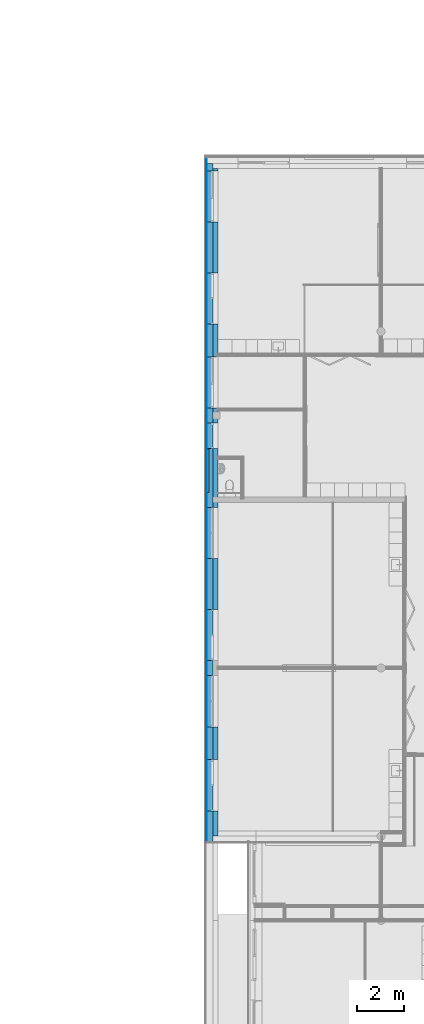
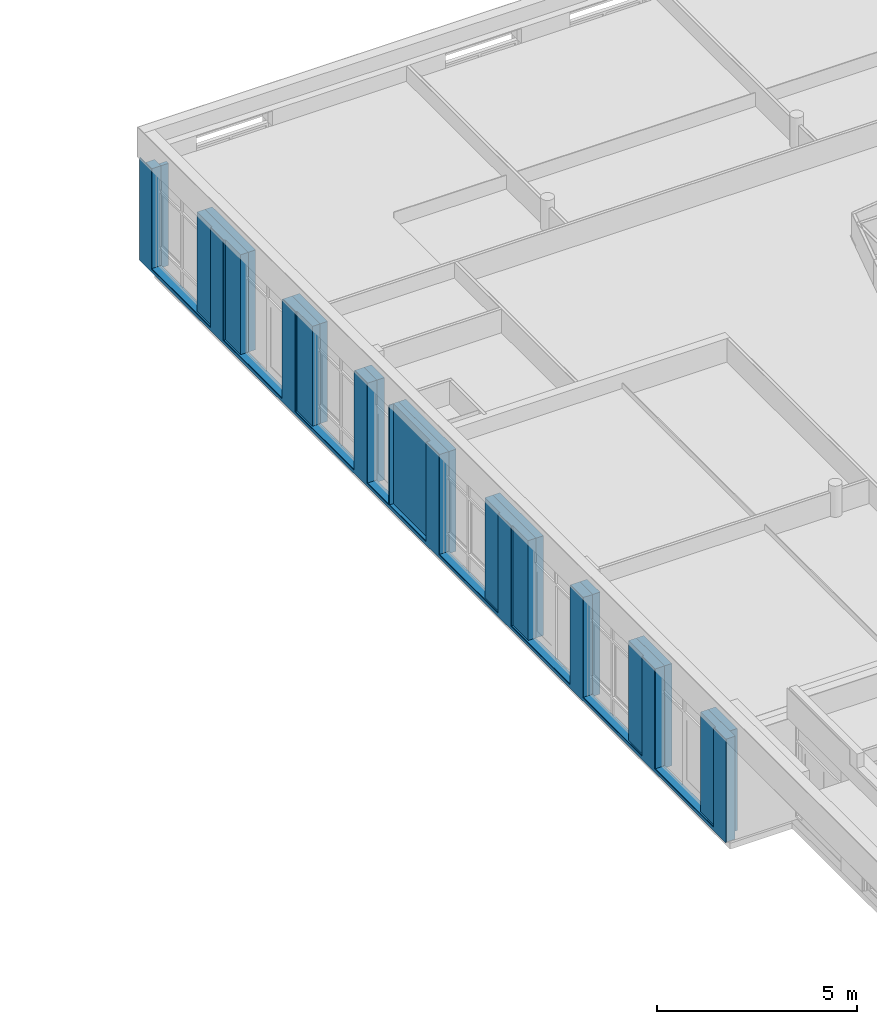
# One storey, part 31 of 167: 3 building element parts, 16 openings, 1 element without a shape of its own.
"""IFC2X3 building model written with IfcOpenShell, lengths in millimetres."""

import ifcopenshell
import ifcopenshell.guid

model = None  # the IFC model being written
_history = None  # IfcOwnerHistory: only IFC2X3 demands one
_inside = {}  # id of a spatial element -> (the spatial element, [elements in it])
_under = {}  # id of a project, library or spatial element -> (it, [spatial elements below it])
_declared = {}  # id of a project -> (the project, [libraries it declares])
_typed = {}  # id of a type object -> (the type object, [elements of that type])
_made_of = {}  # id of a material, layer set ... -> (it, [elements and type objects made of it])


def new_model(schema):
    """Start an empty IFC model of exactly this schema.

    Asked for "IFC4X3", IfcOpenShell would pick the latest addendum, in which some entities
    have other attributes; the version numbers below select the first issue.
    IFC2X3 requires an IfcOwnerHistory on every rooted entity: one is made here for all.
    """
    global model, _history
    if schema == "IFC4X3":
        model = ifcopenshell.file(schema_version=(4, 3, 0, 0))
    else:
        model = ifcopenshell.file(schema=schema)
    _inside.clear()
    _under.clear()
    _declared.clear()
    _typed.clear()
    _made_of.clear()
    _history = None
    if model.schema == "IFC2X3":
        org = make("IfcOrganization", Name="unknown")
        user = make(
            "IfcPersonAndOrganization",
            ThePerson=make("IfcPerson", FamilyName="unknown"),
            TheOrganization=org,
        )
        app = make(
            "IfcApplication",
            ApplicationDeveloper=org,
            Version="unknown",
            ApplicationFullName="unknown",
            ApplicationIdentifier="unknown",
        )
        _history = make(
            "IfcOwnerHistory",
            OwningUser=user,
            OwningApplication=app,
            ChangeAction="ADDED",
            CreationDate=0,
        )
    return model


def make(cls, **values):
    """One entity of the class cls with the attributes given. An attribute that is None is left unset."""
    return model.create_entity(
        cls, **{name: value for name, value in values.items() if value is not None}
    )


def entity(cls, *values):
    """Any entity or typed value of the class cls, its attributes in the order of the schema. None: left unset."""
    e = model.create_entity(cls)
    for i, value in enumerate(values):
        if value is not None:
            e[i] = value
    return e


def rooted(cls, **values):
    """An entity with a GlobalId (a new one), such as an element, a storey or a relation."""
    return make(cls, GlobalId=ifcopenshell.guid.new(), OwnerHistory=_history, **values)


def si_unit(unit_type, name, prefix=None):
    """IfcSIUnit, for example si_unit("LENGTHUNIT", "METRE", prefix="MILLI")."""
    return make("IfcSIUnit", UnitType=unit_type, Prefix=prefix, Name=name)


def converted_unit(unit_type, name, factor, base, dimensions=None, offset=None):
    """IfcConversionBasedUnit, such as the inch: factor (a typed value) times the base unit."""
    return make(
        "IfcConversionBasedUnit"
        if offset is None
        else "IfcConversionBasedUnitWithOffset",
        ConversionOffset=offset,
        Dimensions=None
        if dimensions is None
        else entity("IfcDimensionalExponents", *dimensions),
        UnitType=unit_type,
        Name=name,
        ConversionFactor=make(
            "IfcMeasureWithUnit", ValueComponent=factor, UnitComponent=base
        ),
    )


def derived_unit(unit_type, elements):
    """IfcDerivedUnit: a product of units, each with its exponent."""
    return make(
        "IfcDerivedUnit",
        Elements=[
            make("IfcDerivedUnitElement", Unit=unit, Exponent=power)
            for unit, power in elements
        ],
        UnitType=unit_type,
    )


def money_unit(currency):
    """IfcMonetaryUnit."""
    return make("IfcMonetaryUnit", Currency=currency)


def assignment(units):
    """IfcUnitAssignment: the units of a project."""
    return None if units is None else make("IfcUnitAssignment", Units=units)


def point(xyz):
    """IfcCartesianPoint."""
    return None if xyz is None else make("IfcCartesianPoint", Coordinates=xyz)


def direction(xyz):
    """IfcDirection."""
    return None if xyz is None else make("IfcDirection", DirectionRatios=xyz)


def frame(location, z_axis=None, x_axis=None):
    """IfcAxis2Placement3D, a coordinate frame: its origin and axes. An axis left out is left unset."""
    return make(
        "IfcAxis2Placement3D",
        Location=point(location),
        Axis=direction(z_axis),
        RefDirection=direction(x_axis),
    )


def origin_with_axes():
    """The frame at (0, 0, 0) with the z axis (0, 0, 1) and the x axis (1, 0, 0) written out."""
    return frame((0.0, 0.0, 0.0), z_axis=(0.0, 0.0, 1.0), x_axis=(1.0, 0.0, 0.0))


def place(relative_to, where):
    """IfcLocalPlacement: puts the frame where relative to a parent placement (None: the world)."""
    return make(
        "IfcLocalPlacement", PlacementRelTo=relative_to, RelativePlacement=where
    )


def context(
    kind, dimensions, precision=None, world=None, true_north=None, identifier=None
):
    """IfcGeometricRepresentationContext, for example the 3D "Model" context."""
    return make(
        "IfcGeometricRepresentationContext",
        ContextIdentifier=identifier,
        ContextType=kind,
        CoordinateSpaceDimension=dimensions,
        Precision=precision,
        WorldCoordinateSystem=world,
        TrueNorth=true_north,
    )


def subcontext(parent, identifier, kind, view, scale=None):
    """IfcGeometricRepresentationSubContext, for example "Body" below "Model"."""
    return make(
        "IfcGeometricRepresentationSubContext",
        ContextIdentifier=identifier,
        ContextType=kind,
        ParentContext=parent,
        TargetScale=scale,
        TargetView=view,
    )


def project(units=None, contexts=None):
    """IfcProject with its units and contexts."""
    return rooted(
        "IfcProject",
        Name="project",
        RepresentationContexts=contexts,
        UnitsInContext=assignment(units),
    )


def spatial(cls, under=None, at=None, **own):
    """A site, building, storey or space (cls), placed at a placement, below another one or the project."""
    s = rooted(cls, ObjectPlacement=at, **own)
    if under is not None:
        _under.setdefault(under.id(), (under, []))[1].append(s)
    return s


def faces_of(points, faces, orient=None, outer=None):
    """IfcFace entities. A face is a list of loops; a loop is a list of indices into points, from 0.

    orient and outer hold one flag for each loop. By default every Orientation is true, the
    first loop of a face is its IfcFaceOuterBound and the others are IfcFaceBound.
    """
    made = []
    for i, loops in enumerate(faces):
        bounds = []
        for j, loop in enumerate(loops):
            is_outer = j == 0 if outer is None else outer[i][j]
            bounds.append(
                make(
                    "IfcFaceOuterBound" if is_outer else "IfcFaceBound",
                    Bound=make("IfcPolyLoop", Polygon=[points[k] for k in loop]),
                    Orientation=True if orient is None else orient[i][j],
                )
            )
        made.append(make("IfcFace", Bounds=bounds))
    return made


def faceted_brep(points, faces, orient=None, outer=None, voids=None):
    """IfcFacetedBrep: a solid bounded by flat faces; with voids (closed shells), ...WithVoids."""
    shared = [point(p) for p in points]
    hull = make("IfcClosedShell", CfsFaces=faces_of(shared, faces, orient, outer))
    if voids is None:
        return make("IfcFacetedBrep", Outer=hull)
    return make(
        "IfcFacetedBrepWithVoids",
        Outer=hull,
        Voids=[
            make(cls, CfsFaces=faces_of(shared, fs, o, b)) for cls, fs, o, b in voids
        ],
    )


def shape(context_of_items, identifier, shape_type, items):
    """IfcShapeRepresentation: the items that make up one representation, for example the "Body"."""
    return make(
        "IfcShapeRepresentation",
        ContextOfItems=context_of_items,
        RepresentationIdentifier=identifier,
        RepresentationType=shape_type,
        Items=items,
    )


def material(Name=None, Category=None):
    """IfcMaterial."""
    return make("IfcMaterial", Name=Name, Category=Category)


def made_of(thing, what):
    """Note that an element or type object is made of a material, layer set ...; save() writes the relation."""
    if what is not None:
        _made_of.setdefault(what.id(), (what, []))[1].append(thing)
    return thing


def type_object(cls, material=None, **own):
    """A type object (cls), such as IfcWallType, which elements share."""
    return made_of(rooted(cls, **own), material)


def element(
    cls,
    number,
    at=None,
    inside=None,
    cuts=None,
    type_object=None,
    material=None,
    context=None,
    identifier="Body",
    shape_type=None,
    held_by="IfcProductDefinitionShape",
    body=None,
    shapes=None,
    **own,
):
    """One element of the class cls, such as IfcWall. Its Tag is "e" and its number.

    at: its placement. inside: the storey or other place that contains it. cuts: it is an
    opening in that element (IfcRelVoidsElement). A single representation is given by context,
    identifier, shape_type and body (its items); several are given by shapes. held_by: the class
    of the entity that holds the representations. save() writes the other relations.
    """
    e = rooted(cls, Tag="e%d" % number, ObjectPlacement=at, **own)
    if body is not None:
        shapes = [shape(context, identifier, shape_type, body)]
    if shapes is not None:
        e.Representation = make(held_by, Representations=shapes)
    if inside is not None:
        _inside.setdefault(inside.id(), (inside, []))[1].append(e)
    if cuts is not None:
        rooted(
            "IfcRelVoidsElement", RelatingBuildingElement=cuts, RelatedOpeningElement=e
        )
    if type_object is not None:
        _typed.setdefault(type_object.id(), (type_object, []))[1].append(e)
    return made_of(e, material)


def aggregate(whole, parts):
    """IfcRelAggregates: a whole, such as a stair, and the parts it consists of."""
    return rooted("IfcRelAggregates", RelatingObject=whole, RelatedObjects=parts)


def save(model, path):
    """Write the relations noted so far, then the file.

    IfcRelAggregates (storeys below a building ...), IfcRelContainedInSpatialStructure (elements
    in a storey), IfcRelDefinesByType, IfcRelAssociatesMaterial and IfcRelDeclares: one each for
    every whole, place, type object, material and project.
    """
    for whole, parts in _under.values():
        aggregate(whole, parts)
    for where, things in _inside.values():
        rooted(
            "IfcRelContainedInSpatialStructure",
            RelatedElements=things,
            RelatingStructure=where,
        )
    for kind, things in _typed.values():
        rooted("IfcRelDefinesByType", RelatedObjects=things, RelatingType=kind)
    for what, things in _made_of.values():
        rooted("IfcRelAssociatesMaterial", RelatedObjects=things, RelatingMaterial=what)
    for by, libraries in _declared.values():
        rooted("IfcRelDeclares", RelatingContext=by, RelatedDefinitions=libraries)
    model.write(path)


model = new_model("IFC2X3")

# Units and contexts
model_context = context("Model", 3, precision=0.01, world=origin_with_axes(), true_north=direction((0.0, 1.0)))
plan_context = context("Plan", 3, precision=0.01, world=origin_with_axes(), true_north=direction((0.0, 1.0)))
body_context = subcontext(model_context, "Body", "Model", "MODEL_VIEW")
ifc_project = project(units=[si_unit("LENGTHUNIT", "METRE", prefix="MILLI"), si_unit("AREAUNIT", "SQUARE_METRE"), si_unit("VOLUMEUNIT", "CUBIC_METRE"), converted_unit("PLANEANGLEUNIT", "DEGREE", entity("IfcPlaneAngleMeasure", 0.0174532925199), si_unit("PLANEANGLEUNIT", "RADIAN"), dimensions=[0, 0, 0, 0, 0, 0, 0]), si_unit("SOLIDANGLEUNIT", "STERADIAN"), money_unit("EUR"), converted_unit("TIMEUNIT", "Year", entity("IfcTimeMeasure", 31556926.0), si_unit("TIMEUNIT", "SECOND"), dimensions=[0, 0, 1, 0, 0, 0, 0]), si_unit("MASSUNIT", "GRAM", prefix="KILO"), si_unit("THERMODYNAMICTEMPERATUREUNIT", "DEGREE_CELSIUS"), si_unit("LUMINOUSINTENSITYUNIT", "LUMEN"), si_unit("ENERGYUNIT", "JOULE", prefix="MEGA"), derived_unit("THERMALCONDUCTANCEUNIT", [(si_unit("POWERUNIT", "WATT"), 1), (si_unit("LENGTHUNIT", "METRE"), -1), (si_unit("THERMODYNAMICTEMPERATUREUNIT", "KELVIN"), -1)]), derived_unit("SPECIFICHEATCAPACITYUNIT", [(si_unit("ENERGYUNIT", "JOULE"), 1), (si_unit("MASSUNIT", "GRAM", prefix="KILO"), -1), (si_unit("THERMODYNAMICTEMPERATUREUNIT", "KELVIN"), -1)]), derived_unit("MASSDENSITYUNIT", [(si_unit("MASSUNIT", "GRAM", prefix="KILO"), 1), (si_unit("VOLUMEUNIT", "CUBIC_METRE"), -1)])], contexts=[model_context, plan_context])

# Site, building, storey
site_placement = place(None, origin_with_axes())
site = spatial("IfcSite", under=ifc_project, at=site_placement, Name="Site", CompositionType="ELEMENT")
building_placement = place(site_placement, origin_with_axes())
building = spatial("IfcBuilding", under=site, at=building_placement, Name="Naam gebouw", CompositionType="ELEMENT")
storey_placement = place(building_placement, origin_with_axes())
storey = spatial("IfcBuildingStorey", under=building, at=storey_placement, Name="Begane grond", CompositionType="ELEMENT", Elevation=0.0)

# Wall, openings, building element parts
wall_type = type_object("IfcWallType", Name="_TenW_21_E-BOARD_bg_standaard 498", PredefinedType="NOTDEFINED")
wall_placement = place(storey_placement, frame((0.0, 50400.0, -100.0), z_axis=(0.0, 0.0, 1.0), x_axis=(0.0, -1.0, 0.0)))
wall = element("IfcWall", 1, at=wall_placement, inside=storey, type_object=wall_type, Name="21_Wand_Wand-x")
opening_1_placement = place(wall_placement, frame((4305.525, 0.0, 100.0), z_axis=(0.0, 0.0, 1.0), x_axis=(1.0, 0.0, 0.0)))
element("IfcOpeningElement", 2, at=opening_1_placement, cuts=wall, Name="31_Raam_-", context=body_context, shape_type="Brep", body=[
    faceted_brep([(382.125, -782.0, 0.0), (-382.125, -782.0, 0.0), (-382.125, -224.0, 0.0), (382.125, -224.0, 0.0), (382.125, -782.0, 3050.0), (-382.125, -782.0, 3050.0), (-382.125, -224.0, 3050.0), (382.125, -224.0, 3050.0)], [[[0, 1, 2, 3]], [[0, 4, 5, 1]], [[1, 5, 6, 2]], [[3, 2, 6, 7]], [[4, 0, 3, 7]], [[5, 4, 7, 6]]]),
])
opening_2_placement = place(wall_placement, frame((2895.775, 0.0, 100.0), z_axis=(0.0, 0.0, 1.0), x_axis=(1.0, 0.0, 0.0)))
element("IfcOpeningElement", 3, at=opening_2_placement, cuts=wall, Name="31_Raam_-", context=body_context, shape_type="Brep", body=[
    faceted_brep([(382.125, -782.0, 0.0), (-382.125, -782.0, 0.0), (-382.125, -224.0, 0.0), (382.125, -224.0, 0.0), (382.125, -782.0, 3050.0), (-382.125, -782.0, 3050.0), (-382.125, -224.0, 3050.0), (382.125, -224.0, 3050.0)], [[[0, 1, 2, 3]], [[0, 4, 5, 1]], [[1, 5, 6, 2]], [[3, 2, 6, 7]], [[4, 0, 3, 7]], [[5, 4, 7, 6]]]),
])
opening_3_placement = place(wall_placement, frame((7905.825, 0.0, 100.0), z_axis=(0.0, 0.0, 1.0), x_axis=(1.0, 0.0, 0.0)))
element("IfcOpeningElement", 4, at=opening_3_placement, cuts=wall, Name="31_Raam_-", context=body_context, shape_type="Brep", body=[
    faceted_brep([(382.125, -782.0, 0.0), (-382.125, -782.0, 0.0), (-382.125, -224.0, 0.0), (382.125, -224.0, 0.0), (382.125, -782.0, 3050.0), (-382.125, -782.0, 3050.0), (-382.125, -224.0, 3050.0), (382.125, -224.0, 3050.0)], [[[0, 1, 2, 3]], [[0, 4, 5, 1]], [[1, 5, 6, 2]], [[3, 2, 6, 7]], [[4, 0, 3, 7]], [[5, 4, 7, 6]]]),
])
opening_4_placement = place(wall_placement, frame((13151.45, 0.0, 100.0), z_axis=(0.0, 0.0, 1.0), x_axis=(1.0, 0.0, 0.0)))
element("IfcOpeningElement", 5, at=opening_4_placement, cuts=wall, Name="31_Raam_-", context=body_context, shape_type="Brep", body=[
    faceted_brep([(927.35, -782.0, 0.0), (-927.35, -782.0, 0.0), (-927.35, -160.0, 0.0), (927.35, -160.0, 0.0), (927.35, -782.0, 3050.0), (-927.35, -782.0, 3050.0), (-927.35, -160.0, 3050.0), (927.35, -160.0, 3050.0)], [[[0, 1, 2, 3]], [[0, 4, 5, 1]], [[1, 5, 6, 2]], [[3, 2, 6, 7]], [[4, 0, 3, 7]], [[5, 4, 7, 6]]]),
])
opening_5_placement = place(wall_placement, frame((17297.425, 0.0, 100.0), z_axis=(0.0, 0.0, 1.0), x_axis=(1.0, 0.0, 0.0)))
element("IfcOpeningElement", 6, at=opening_5_placement, cuts=wall, Name="31_Raam_-", context=body_context, shape_type="Brep", body=[
    faceted_brep([(382.275, -782.0, 0.0), (-382.275, -782.0, 0.0), (-382.275, -224.0, 0.0), (382.275, -224.0, 0.0), (382.275, -782.0, 3050.0), (-382.275, -782.0, 3050.0), (-382.275, -224.0, 3050.0), (382.275, -224.0, 3050.0)], [[[0, 1, 2, 3]], [[0, 4, 5, 1]], [[1, 5, 6, 2]], [[3, 2, 6, 7]], [[4, 0, 3, 7]], [[5, 4, 7, 6]]]),
])
opening_6_placement = place(wall_placement, frame((18707.3, 0.0, 100.0), z_axis=(0.0, 0.0, 1.0), x_axis=(1.0, 0.0, 0.0)))
element("IfcOpeningElement", 7, at=opening_6_placement, cuts=wall, Name="31_Raam_-", context=body_context, shape_type="Brep", body=[
    faceted_brep([(382.1, -782.0, 0.0), (-382.1, -782.0, 0.0), (-382.1, -224.0, 0.0), (382.1, -224.0, 0.0), (382.1, -782.0, 3050.0), (-382.1, -782.0, 3050.0), (-382.1, -224.0, 3050.0), (382.1, -224.0, 3050.0)], [[[0, 1, 2, 3]], [[0, 4, 5, 1]], [[1, 5, 6, 2]], [[3, 2, 6, 7]], [[4, 0, 3, 7]], [[5, 4, 7, 6]]]),
])
opening_7_placement = place(wall_placement, frame((24497.85, 0.0, 100.0), z_axis=(0.0, 0.0, 1.0), x_axis=(1.0, 0.0, 0.0)))
element("IfcOpeningElement", 8, at=opening_7_placement, cuts=wall, Name="31_Raam_-", context=body_context, shape_type="Brep", body=[
    faceted_brep([(381.85, -782.0, 0.0), (-381.85, -782.0, 0.0), (-381.85, -224.0, 0.0), (381.85, -224.0, 0.0), (381.85, -782.0, 3050.0), (-381.85, -782.0, 3050.0), (-381.85, -224.0, 3050.0), (381.85, -224.0, 3050.0)], [[[0, 1, 2, 3]], [[0, 4, 5, 1]], [[1, 5, 6, 2]], [[3, 2, 6, 7]], [[4, 0, 3, 7]], [[5, 4, 7, 6]]]),
])
opening_8_placement = place(wall_placement, frame((28097.6, 0.0, 100.0), z_axis=(0.0, 0.0, 1.0), x_axis=(1.0, 0.0, 0.0)))
element("IfcOpeningElement", 9, at=opening_8_placement, cuts=wall, Name="31_Raam_-", context=body_context, shape_type="Brep", body=[
    faceted_brep([(381.85, -782.0, 0.0), (-381.85, -782.0, 0.0), (-381.85, -224.0, 0.0), (381.85, -224.0, 0.0), (381.85, -782.0, 3050.0), (-381.85, -782.0, 3050.0), (-381.85, -224.0, 3050.0), (381.85, -224.0, 3050.0)], [[[0, 1, 2, 3]], [[0, 4, 5, 1]], [[1, 5, 6, 2]], [[3, 2, 6, 7]], [[4, 0, 3, 7]], [[5, 4, 7, 6]]]),
])
opening_9_placement = place(wall_placement, frame((9382.95, 0.0, 100.0), z_axis=(0.0, 0.0, 1.0), x_axis=(1.0, 0.0, 0.0)))
element("IfcOpeningElement", 10, at=opening_9_placement, cuts=wall, Name="31_Raam_He-10", context=body_context, shape_type="Brep", body=[
    faceted_brep([(-1095.0, -164.0, 3050.0), (-1095.0, -79.0, 3050.0), (1095.0, -79.0, 3050.0), (1095.0, -164.0, 3050.0), (-1095.0, -164.0, 3135.0), (-1095.0, -79.0, 3135.0), (1095.0, -79.0, 3135.0), (1095.0, -164.0, 3135.0)], [[[0, 1, 2, 3]], [[0, 4, 5, 1]], [[1, 5, 6, 2]], [[3, 2, 6, 7]], [[4, 0, 3, 7]], [[5, 4, 7, 6]]]),
    faceted_brep([(-1095.0, -84.0, 0.0), (-1095.0, -84.0, 3050.0), (-1095.0, 712.0, 3050.0), (-1095.0, 712.0, 0.0), (1095.0, -84.0, 0.0), (1095.0, -84.0, 3050.0), (1095.0, 712.0, 3050.0), (1095.0, 712.0, 0.0)], [[[0, 1, 2, 3]], [[0, 4, 5, 1]], [[1, 5, 6, 2]], [[3, 2, 6, 7]], [[4, 0, 3, 7]], [[5, 4, 7, 6]]]),
    faceted_brep([(-1095.0, -84.0, 3050.0), (-1095.0, -84.0, 0.0), (-1095.0, -782.0, 0.0), (-1095.0, -782.0, 3050.0), (1095.0, -84.0, 3050.0), (1095.0, -84.0, 0.0), (1095.0, -782.0, 0.0), (1095.0, -782.0, 3050.0)], [[[0, 1, 2, 3]], [[0, 4, 5, 1]], [[1, 5, 6, 2]], [[3, 2, 6, 7]], [[4, 0, 3, 7]], [[5, 4, 7, 6]]]),
])
opening_10_placement = place(wall_placement, frame((15820.15, 0.0, 100.0), z_axis=(0.0, 0.0, 1.0), x_axis=(1.0, 0.0, 0.0)))
element("IfcOpeningElement", 11, at=opening_10_placement, cuts=wall, Name="31_Raam_He-16", context=body_context, shape_type="Brep", body=[
    faceted_brep([(-1095.0, -164.0, 3050.0), (-1095.0, -79.0, 3050.0), (1095.0, -79.0, 3050.0), (1095.0, -164.0, 3050.0), (-1095.0, -164.0, 3135.0), (-1095.0, -79.0, 3135.0), (1095.0, -79.0, 3135.0), (1095.0, -164.0, 3135.0)], [[[0, 1, 2, 3]], [[0, 4, 5, 1]], [[1, 5, 6, 2]], [[3, 2, 6, 7]], [[4, 0, 3, 7]], [[5, 4, 7, 6]]]),
    faceted_brep([(-1095.0, -84.0, 0.0), (-1095.0, -84.0, 3050.0), (-1095.0, 712.0, 3050.0), (-1095.0, 712.0, 0.0), (1095.0, -84.0, 0.0), (1095.0, -84.0, 3050.0), (1095.0, 712.0, 3050.0), (1095.0, 712.0, 0.0)], [[[0, 1, 2, 3]], [[0, 4, 5, 1]], [[1, 5, 6, 2]], [[3, 2, 6, 7]], [[4, 0, 3, 7]], [[5, 4, 7, 6]]]),
    faceted_brep([(-1095.0, -84.0, 3050.0), (-1095.0, -84.0, 0.0), (-1095.0, -782.0, 0.0), (-1095.0, -782.0, 3050.0), (1095.0, -84.0, 3050.0), (1095.0, -84.0, 0.0), (1095.0, -782.0, 0.0), (1095.0, -782.0, 3050.0)], [[[0, 1, 2, 3]], [[0, 4, 5, 1]], [[1, 5, 6, 2]], [[3, 2, 6, 7]], [[4, 0, 3, 7]], [[5, 4, 7, 6]]]),
])
opening_11_placement = place(wall_placement, frame((23021.0, 0.0, 100.0), z_axis=(0.0, 0.0, 1.0), x_axis=(1.0, 0.0, 0.0)))
element("IfcOpeningElement", 12, at=opening_11_placement, cuts=wall, Name="31_Raam_He-16", context=body_context, shape_type="Brep", body=[
    faceted_brep([(-1095.0, -164.0, 3050.0), (-1095.0, -79.0, 3050.0), (1095.0, -79.0, 3050.0), (1095.0, -164.0, 3050.0), (-1095.0, -164.0, 3135.0), (-1095.0, -79.0, 3135.0), (1095.0, -79.0, 3135.0), (1095.0, -164.0, 3135.0)], [[[0, 1, 2, 3]], [[0, 4, 5, 1]], [[1, 5, 6, 2]], [[3, 2, 6, 7]], [[4, 0, 3, 7]], [[5, 4, 7, 6]]]),
    faceted_brep([(-1095.0, -84.0, 0.0), (-1095.0, -84.0, 3050.0), (-1095.0, 712.0, 3050.0), (-1095.0, 712.0, 0.0), (1095.0, -84.0, 0.0), (1095.0, -84.0, 3050.0), (1095.0, 712.0, 3050.0), (1095.0, 712.0, 0.0)], [[[0, 1, 2, 3]], [[0, 4, 5, 1]], [[1, 5, 6, 2]], [[3, 2, 6, 7]], [[4, 0, 3, 7]], [[5, 4, 7, 6]]]),
    faceted_brep([(-1095.0, -84.0, 3050.0), (-1095.0, -84.0, 0.0), (-1095.0, -782.0, 0.0), (-1095.0, -782.0, 3050.0), (1095.0, -84.0, 3050.0), (1095.0, -84.0, 0.0), (1095.0, -782.0, 0.0), (1095.0, -782.0, 3050.0)], [[[0, 1, 2, 3]], [[0, 4, 5, 1]], [[1, 5, 6, 2]], [[3, 2, 6, 7]], [[4, 0, 3, 7]], [[5, 4, 7, 6]]]),
])
opening_12_placement = place(wall_placement, frame((1418.65, 0.0, 100.0), z_axis=(0.0, 0.0, 1.0), x_axis=(1.0, 0.0, 0.0)))
element("IfcOpeningElement", 13, at=opening_12_placement, cuts=wall, Name="31_Raam_He-10", context=body_context, shape_type="Brep", body=[
    faceted_brep([(-1095.0, -164.0, 3050.0), (-1095.0, -79.0, 3050.0), (1095.0, -79.0, 3050.0), (1095.0, -164.0, 3050.0), (-1095.0, -164.0, 3135.0), (-1095.0, -79.0, 3135.0), (1095.0, -79.0, 3135.0), (1095.0, -164.0, 3135.0)], [[[0, 1, 2, 3]], [[0, 4, 5, 1]], [[1, 5, 6, 2]], [[3, 2, 6, 7]], [[4, 0, 3, 7]], [[5, 4, 7, 6]]]),
    faceted_brep([(-1095.0, -84.0, 0.0), (-1095.0, -84.0, 3050.0), (-1095.0, 712.0, 3050.0), (-1095.0, 712.0, 0.0), (1095.0, -84.0, 0.0), (1095.0, -84.0, 3050.0), (1095.0, 712.0, 3050.0), (1095.0, 712.0, 0.0)], [[[0, 1, 2, 3]], [[0, 4, 5, 1]], [[1, 5, 6, 2]], [[3, 2, 6, 7]], [[4, 0, 3, 7]], [[5, 4, 7, 6]]]),
    faceted_brep([(-1095.0, -84.0, 3050.0), (-1095.0, -84.0, 0.0), (-1095.0, -782.0, 0.0), (-1095.0, -782.0, 3050.0), (1095.0, -84.0, 3050.0), (1095.0, -84.0, 0.0), (1095.0, -782.0, 0.0), (1095.0, -782.0, 3050.0)], [[[0, 1, 2, 3]], [[0, 4, 5, 1]], [[1, 5, 6, 2]], [[3, 2, 6, 7]], [[4, 0, 3, 7]], [[5, 4, 7, 6]]]),
])
opening_13_placement = place(wall_placement, frame((20184.4, 0.0, 100.0), z_axis=(0.0, 0.0, 1.0), x_axis=(1.0, 0.0, 0.0)))
element("IfcOpeningElement", 14, at=opening_13_placement, cuts=wall, Name="32_Deur_He-08", context=body_context, shape_type="Brep", body=[
    faceted_brep([(-1095.0, 712.0, 3050.0), (-1095.0, 712.0, 0.0), (-1095.0, -84.0, 0.0), (-1095.0, -84.0, 3050.0), (1095.0, 712.0, 3050.0), (1095.0, 712.0, 0.0), (1095.0, -84.0, 0.0), (1095.0, -84.0, 3050.0)], [[[0, 1, 2, 3]], [[0, 4, 5, 1]], [[1, 5, 6, 2]], [[3, 2, 6, 7]], [[4, 0, 3, 7]], [[5, 4, 7, 6]]]),
    faceted_brep([(-1095.0, -782.0, 0.0), (-1095.0, -782.0, 3050.0), (-1095.0, -84.0, 3050.0), (-1095.0, -84.0, 0.0), (1095.0, -782.0, 0.0), (1095.0, -782.0, 3050.0), (1095.0, -84.0, 3050.0), (1095.0, -84.0, 0.0)], [[[0, 1, 2, 3]], [[0, 4, 5, 1]], [[1, 5, 6, 2]], [[3, 2, 6, 7]], [[4, 0, 3, 7]], [[5, 4, 7, 6]]]),
])
opening_14_placement = place(wall_placement, frame((26620.75, 0.0, 100.0), z_axis=(0.0, 0.0, 1.0), x_axis=(1.0, 0.0, 0.0)))
element("IfcOpeningElement", 15, at=opening_14_placement, cuts=wall, Name="32_Deur_He-08s", context=body_context, shape_type="Brep", body=[
    faceted_brep([(1095.0, -84.0, 3050.0), (1095.0, -84.0, 0.0), (1095.0, 712.0, 0.0), (1095.0, 712.0, 3050.0), (-1095.0, -84.0, 3050.0), (-1095.0, -84.0, 0.0), (-1095.0, 712.0, 0.0), (-1095.0, 712.0, 3050.0)], [[[0, 1, 2, 3]], [[0, 4, 5, 1]], [[1, 5, 6, 2]], [[3, 2, 6, 7]], [[4, 0, 3, 7]], [[5, 4, 7, 6]]]),
    faceted_brep([(1095.0, -84.0, 0.0), (1095.0, -84.0, 3050.0), (1095.0, -782.0, 3050.0), (1095.0, -782.0, 0.0), (-1095.0, -84.0, 0.0), (-1095.0, -84.0, 3050.0), (-1095.0, -782.0, 3050.0), (-1095.0, -782.0, 0.0)], [[[0, 1, 2, 3]], [[0, 4, 5, 1]], [[1, 5, 6, 2]], [[3, 2, 6, 7]], [[4, 0, 3, 7]], [[5, 4, 7, 6]]]),
])
opening_15_placement = place(wall_placement, frame((5782.65, 0.0, 100.0), z_axis=(0.0, 0.0, 1.0), x_axis=(1.0, 0.0, 0.0)))
element("IfcOpeningElement", 16, at=opening_15_placement, cuts=wall, Name="32_Deur_He-08s", context=body_context, shape_type="Brep", body=[
    faceted_brep([(1095.0, -84.0, 3050.0), (1095.0, -84.0, 0.0), (1095.0, 712.0, 0.0), (1095.0, 712.0, 3050.0), (-1095.0, -84.0, 3050.0), (-1095.0, -84.0, 0.0), (-1095.0, 712.0, 0.0), (-1095.0, 712.0, 3050.0)], [[[0, 1, 2, 3]], [[0, 4, 5, 1]], [[1, 5, 6, 2]], [[3, 2, 6, 7]], [[4, 0, 3, 7]], [[5, 4, 7, 6]]]),
    faceted_brep([(1095.0, -84.0, 0.0), (1095.0, -84.0, 3050.0), (1095.0, -782.0, 3050.0), (1095.0, -782.0, 0.0), (-1095.0, -84.0, 0.0), (-1095.0, -84.0, 3050.0), (-1095.0, -782.0, 3050.0), (-1095.0, -782.0, 0.0)], [[[0, 1, 2, 3]], [[0, 4, 5, 1]], [[1, 5, 6, 2]], [[3, 2, 6, 7]], [[4, 0, 3, 7]], [[5, 4, 7, 6]]]),
])
opening_16_placement = place(wall_placement, frame((11666.0, 0.0, 100.0), z_axis=(0.0, 0.0, 1.0), x_axis=(1.0, 0.0, 0.0)))
element("IfcOpeningElement", 17, at=opening_16_placement, cuts=wall, Name="32_Deur_He-01", context=body_context, shape_type="Brep", body=[
    faceted_brep([(-542.0, 712.0, 3050.0), (-542.0, 712.0, 0.0), (-542.0, -84.0, 0.0), (-542.0, -84.0, 3050.0), (542.0, 712.0, 3050.0), (542.0, 712.0, 0.0), (542.0, -84.0, 0.0), (542.0, -84.0, 3050.0)], [[[0, 1, 2, 3]], [[0, 4, 5, 1]], [[1, 5, 6, 2]], [[3, 2, 6, 7]], [[4, 0, 3, 7]], [[5, 4, 7, 6]]]),
    faceted_brep([(-542.0, -782.0, 0.0), (-542.0, -782.0, 3050.0), (-542.0, -84.0, 3050.0), (-542.0, -84.0, 0.0), (542.0, -782.0, 0.0), (542.0, -782.0, 3050.0), (542.0, -84.0, 3050.0), (542.0, -84.0, 0.0)], [[[0, 1, 2, 3]], [[0, 4, 5, 1]], [[1, 5, 6, 2]], [[3, 2, 6, 7]], [[4, 0, 3, 7]], [[5, 4, 7, 6]]]),
])
ifc_material_1 = material(Name="Steen - Kalkzandsteen C")
building_element_part_1_placement = place(wall_placement, origin_with_axes())
building_element_part_1 = element("IfcBuildingElementPart", 18, at=building_element_part_1_placement, material=ifc_material_1, Name="Steen - Kalkzandsteen C", context=body_context, shape_type="Brep", body=[
    faceted_brep([(2513.65, 214.0, 3150.0), (2513.65, 0.0, 3150.0), (4687.65, 0.0, 3150.0), (4687.65, 214.0, 3150.0), (2513.65, 0.0, 100.0), (2513.65, 214.0, 100.0), (3923.4, 0.0, 30.0), (3923.4, 0.0, 100.0), (4687.65, 0.0, 100.0), (3277.9, 0.0, 100.0), (3277.9, 0.0, 30.0), (4687.65, 214.0, 100.0), (3923.4, 214.0, 100.0), (3923.4, 214.0, 30.0), (3277.9, 214.0, 30.0), (3277.9, 214.0, 100.0)], [[[0, 1, 2, 3]], [[4, 1, 0, 5]], [[6, 7, 8, 2, 1, 4, 9, 10]], [[2, 8, 11, 3]], [[5, 0, 3, 11, 12, 13, 14, 15]], [[9, 4, 5, 15]], [[12, 7, 6, 13]], [[7, 12, 11, 8]], [[14, 10, 9, 15]], [[6, 10, 14, 13]]]),
    faceted_brep([(25525.75, 0.0, 3150.0), (25525.75, 214.0, 3150.0), (24116.0, 214.0, 3150.0), (24116.0, 0.0, 3150.0), (25525.75, 214.0, 100.0), (25525.75, 0.0, 100.0), (24879.7, 214.0, 30.0), (24879.7, 214.0, 100.0), (24116.0, 214.0, 100.0), (25525.75, 214.0, 30.0), (24116.0, 0.0, 100.0), (24879.7, 0.0, 100.0), (24879.7, 0.0, 30.0), (25525.75, 0.0, 30.0)], [[[0, 1, 2, 3]], [[4, 1, 0, 5]], [[6, 7, 8, 2, 1, 4, 9]], [[2, 8, 10, 3]], [[10, 11, 12, 13, 5, 0, 3]], [[4, 5, 13, 9]], [[7, 6, 12, 11]], [[8, 7, 11, 10]], [[9, 13, 12, 6]]]),
    faceted_brep([(16915.15, 214.0, 3150.0), (16915.15, 0.0, 3150.0), (19089.4, 0.0, 3150.0), (19089.4, 214.0, 3150.0), (16915.15, 214.0, 100.0), (16915.15, 0.0, 100.0), (17679.7, 0.0, 100.0), (17679.7, 0.0, 30.0), (18325.2, 0.0, 30.0), (18325.2, 0.0, 100.0), (19089.4, 0.0, 100.0), (19089.4, 214.0, 100.0), (18325.2, 214.0, 100.0), (18325.2, 214.0, 30.0), (17679.7, 214.0, 30.0), (17679.7, 214.0, 100.0)], [[[0, 1, 2, 3]], [[4, 5, 1, 0]], [[1, 5, 6, 7, 8, 9, 10, 2]], [[2, 10, 11, 3]], [[12, 13, 14, 15, 4, 0, 3, 11]], [[15, 6, 5, 4]], [[15, 14, 7, 6]], [[13, 8, 7, 14]], [[13, 12, 9, 8]], [[9, 12, 11, 10]]]),
    faceted_brep([(323.65, 0.0, 3150.0), (323.65, 214.0, 3150.0), (214.0, 214.0, 3150.0), (214.0, 0.0, 3150.0), (323.65, 214.0, 100.0), (323.65, 0.0, 100.0), (323.65, 214.0, 30.0), (214.0, 214.0, 30.0), (214.0, 0.0, 30.0), (323.65, 0.0, 30.0)], [[[0, 1, 2, 3]], [[4, 1, 0, 5]], [[6, 7, 2, 1, 4]], [[3, 2, 7, 8]], [[3, 8, 9, 5, 0]], [[4, 5, 9, 6]], [[8, 7, 6, 9]]]),
    faceted_brep([(21279.4, 214.0, 100.0), (21279.4, 214.0, 3150.0), (21926.0, 214.0, 3150.0), (21926.0, 214.0, 100.0), (21926.0, 214.0, 30.0), (21279.4, 214.0, 30.0), (21279.4, 0.0, 100.0), (21279.4, 0.0, 3150.0), (21926.0, 0.0, 3150.0), (21926.0, 0.0, 100.0), (21926.0, 0.0, 30.0), (21279.4, 0.0, 30.0)], [[[0, 1, 2, 3, 4, 5]], [[0, 6, 7, 1]], [[8, 2, 1, 7]], [[2, 8, 9, 3]], [[9, 10, 4, 3]], [[4, 10, 11, 5]], [[5, 11, 6, 0]], [[7, 6, 11, 10, 9, 8]]]),
    faceted_brep([(12208.0, 214.0, 100.0), (12208.0, 214.0, 3150.0), (14725.15, 214.0, 3150.0), (14725.15, 214.0, 100.0), (14725.15, 214.0, 30.0), (14078.8, 214.0, 30.0), (14078.8, 214.0, 100.0), (12224.1, 214.0, 100.0), (12224.1, 214.0, 30.0), (12208.0, 214.0, 30.0), (12208.0, 0.0, 3150.0), (12208.0, 0.0, 100.0), (14725.15, 0.0, 3150.0), (14725.15, 0.0, 100.0), (14725.15, 0.0, 30.0), (14078.8, 0.0, 30.0), (14078.8, 0.0, 100.0), (12224.1, 0.0, 100.0), (12224.1, 0.0, 30.0), (12208.0, 0.0, 30.0)], [[[0, 1, 2, 3, 4, 5, 6, 7, 8, 9]], [[10, 1, 0, 11]], [[1, 10, 12, 2]], [[13, 3, 2, 12]], [[4, 3, 13, 14]], [[14, 15, 5, 4]], [[5, 15, 16, 6]], [[6, 16, 17, 7]], [[7, 17, 18, 8]], [[18, 19, 9, 8]], [[11, 0, 9, 19]], [[10, 11, 19, 18, 17, 16, 15, 14, 13, 12]]]),
    faceted_brep([(7523.7, 214.0, 30.0), (6877.65, 214.0, 30.0), (6877.65, 214.0, 100.0), (6877.65, 214.0, 3150.0), (8287.95, 214.0, 3150.0), (8287.95, 214.0, 100.0), (7523.7, 214.0, 100.0), (7523.7, 0.0, 30.0), (6877.65, 0.0, 30.0), (6877.65, 0.0, 100.0), (6877.65, 0.0, 3150.0), (8287.95, 0.0, 3150.0), (8287.95, 0.0, 100.0), (7523.7, 0.0, 100.0)], [[[0, 1, 2, 3, 4, 5, 6]], [[7, 8, 1, 0]], [[1, 8, 9, 2]], [[2, 9, 10, 3]], [[11, 4, 3, 10]], [[5, 4, 11, 12]], [[5, 12, 13, 6]], [[6, 13, 7, 0]], [[12, 11, 10, 9, 8, 7, 13]]]),
    faceted_brep([(28800.0, 214.0, 3150.0), (28800.0, 214.0, 30.0), (28479.45, 214.0, 30.0), (28479.45, 214.0, 100.0), (27715.75, 214.0, 100.0), (27715.75, 214.0, 3150.0), (28800.0, 0.0, 30.0), (28800.0, 0.0, 3150.0), (28479.45, 0.0, 30.0), (28479.45, 0.0, 100.0), (27715.75, 0.0, 100.0), (27715.75, 0.0, 3150.0)], [[[0, 1, 2, 3, 4, 5]], [[6, 1, 0, 7]], [[8, 2, 1, 6]], [[3, 2, 8, 9]], [[10, 4, 3, 9]], [[11, 5, 4, 10]], [[5, 11, 7, 0]], [[9, 8, 6, 7, 11, 10]]]),
    faceted_brep([(11124.0, 0.0, 3150.0), (11124.0, 214.0, 3150.0), (10477.95, 214.0, 3150.0), (10477.95, 0.0, 3150.0), (11124.0, 214.0, 100.0), (11124.0, 0.0, 100.0), (11124.0, 214.0, 30.0), (10477.95, 214.0, 30.0), (10477.95, 214.0, 100.0), (10477.95, 0.0, 100.0), (10477.95, 0.0, 30.0), (11124.0, 0.0, 30.0)], [[[0, 1, 2, 3]], [[4, 1, 0, 5]], [[1, 4, 6, 7, 8, 2]], [[3, 2, 8, 9]], [[5, 0, 3, 9, 10, 11]], [[4, 5, 11, 6]], [[11, 10, 7, 6]], [[9, 8, 7, 10]]]),
])
ifc_material_2 = material(Name="Isolatie - Steenwol zacht")
building_element_part_2_placement = place(wall_placement, origin_with_axes())
building_element_part_2 = element("IfcBuildingElementPart", 19, at=building_element_part_2_placement, material=ifc_material_2, Name="Isolatie - Steenwol zacht", context=body_context, shape_type="Brep", body=[
    faceted_brep([(11124.0, -84.0, 3150.0), (11124.0, 0.0, 3150.0), (10477.95, 0.0, 3150.0), (10477.95, -84.0, 3150.0), (10477.95, -264.0, 3150.0), (11124.0, -264.0, 3150.0), (11124.0, 0.0, 100.0), (11124.0, -84.0, 100.0), (12208.0, 0.0, 100.0), (12208.0, 0.0, 3150.0), (14725.15, 0.0, 3150.0), (14725.15, 0.0, 100.0), (16915.15, 0.0, 100.0), (16915.15, 0.0, 3150.0), (19089.4, 0.0, 3150.0), (19089.4, 0.0, 100.0), (21279.4, 0.0, 100.0), (21279.4, 0.0, 3150.0), (21926.0, 0.0, 3150.0), (21926.0, 0.0, 100.0), (24116.0, 0.0, 100.0), (24116.0, 0.0, 3150.0), (25525.75, 0.0, 3150.0), (25525.75, 0.0, 100.0), (27715.75, 0.0, 100.0), (27715.75, 0.0, 3150.0), (29064.0, 0.0, 3150.0), (29064.0, 0.0, 0.0), (0.0, 0.0, 0.0), (0.0, 0.0, 3150.0), (323.65, 0.0, 3150.0), (323.65, 0.0, 100.0), (2513.65, 0.0, 100.0), (2513.65, 0.0, 3150.0), (4687.65, 0.0, 3150.0), (4687.65, 0.0, 100.0), (6877.65, 0.0, 100.0), (6877.65, 0.0, 3150.0), (8287.95, 0.0, 3150.0), (8287.95, 0.0, 100.0), (10477.95, 0.0, 100.0), (10477.95, -84.0, 100.0), (10477.95, -264.0, 100.0), (12224.1, -264.0, 3150.0), (12208.0, -264.0, 3150.0), (12208.0, -264.0, 100.0), (11124.0, -264.0, 100.0), (7523.7, -264.0, 100.0), (7523.7, -264.0, 3150.0), (6877.65, -264.0, 3150.0), (6877.65, -264.0, 100.0), (3923.4, -264.0, 100.0), (3923.4, -264.0, 3150.0), (3277.9, -264.0, 3150.0), (3277.9, -264.0, 100.0), (323.65, -264.0, 100.0), (323.65, -264.0, 3150.0), (0.0, -264.0, 3150.0), (0.0, -264.0, 0.0), (29064.0, -264.0, 0.0), (29064.0, -264.0, 3150.0), (28479.45, -264.0, 3150.0), (28479.45, -264.0, 100.0), (25525.75, -264.0, 100.0), (25525.75, -264.0, 3150.0), (24879.7, -264.0, 3150.0), (24879.7, -264.0, 100.0), (21926.0, -264.0, 100.0), (21926.0, -264.0, 3150.0), (21279.4, -264.0, 3150.0), (21279.4, -264.0, 100.0), (18325.2, -264.0, 100.0), (18325.2, -264.0, 3150.0), (17679.7, -264.0, 3150.0), (17679.7, -264.0, 100.0), (14725.15, -264.0, 100.0), (14725.15, -264.0, 3150.0), (14078.8, -264.0, 3150.0), (14078.8, -264.0, 100.0), (12224.1, -264.0, 100.0), (12208.0, -84.0, 100.0), (12208.0, -84.0, 3150.0), (12224.1, -160.0, 3150.0), (14078.8, -160.0, 3150.0), (14725.15, -84.0, 3150.0), (14725.15, -84.0, 100.0), (16915.15, -84.0, 100.0), (16915.15, -84.0, 3150.0), (16915.15, -224.0, 3150.0), (17679.7, -224.0, 3150.0), (18325.2, -224.0, 3150.0), (19089.4, -224.0, 3150.0), (19089.4, -84.0, 3150.0), (19089.4, -84.0, 100.0), (21279.4, -84.0, 100.0), (21279.4, -84.0, 3150.0), (21926.0, -84.0, 3150.0), (21926.0, -84.0, 100.0), (24116.0, -84.0, 100.0), (24116.0, -84.0, 3150.0), (24116.0, -224.0, 3150.0), (24879.7, -224.0, 3150.0), (25525.75, -84.0, 3150.0), (25525.75, -84.0, 100.0), (27715.75, -84.0, 100.0), (27715.75, -84.0, 3150.0), (27715.75, -224.0, 3150.0), (28479.45, -224.0, 3150.0), (323.65, -84.0, 3150.0), (323.65, -84.0, 100.0), (2513.65, -84.0, 100.0), (2513.65, -84.0, 3150.0), (2513.65, -224.0, 3150.0), (3277.9, -224.0, 3150.0), (3923.4, -224.0, 3150.0), (4687.65, -224.0, 3150.0), (4687.65, -84.0, 3150.0), (4687.65, -84.0, 100.0), (6877.65, -84.0, 100.0), (6877.65, -84.0, 3150.0), (7523.7, -224.0, 3150.0), (8287.95, -224.0, 3150.0), (8287.95, -84.0, 3150.0), (8287.95, -84.0, 100.0), (8287.95, -224.0, 100.0), (7523.7, -224.0, 100.0), (4687.65, -224.0, 100.0), (3923.4, -224.0, 100.0), (3277.9, -224.0, 100.0), (2513.65, -224.0, 100.0), (28479.45, -224.0, 100.0), (27715.75, -224.0, 100.0), (24879.7, -224.0, 100.0), (24116.0, -224.0, 100.0), (19089.4, -224.0, 100.0), (18325.2, -224.0, 100.0), (17679.7, -224.0, 100.0), (16915.15, -224.0, 100.0), (14078.8, -160.0, 100.0), (12224.1, -160.0, 100.0)], [[[0, 1, 2, 3, 4, 5]], [[6, 1, 0, 7]], [[8, 9, 10, 11, 12, 13, 14, 15, 16, 17, 18, 19, 20, 21, 22, 23, 24, 25, 26, 27, 28, 29, 30, 31, 32, 33, 34, 35, 36, 37, 38, 39, 40, 2, 1, 6]], [[40, 41, 3, 2]], [[42, 4, 3, 41]], [[43, 44, 45, 46, 5, 4, 42, 47, 48, 49, 50, 51, 52, 53, 54, 55, 56, 57, 58, 59, 60, 61, 62, 63, 64, 65, 66, 67, 68, 69, 70, 71, 72, 73, 74, 75, 76, 77, 78, 79]], [[7, 0, 5, 46]], [[8, 6, 7, 80]], [[81, 9, 8, 80]], [[9, 81, 44, 43, 82, 83, 77, 76, 84, 10]], [[11, 10, 84, 85]], [[12, 11, 85, 86]], [[87, 13, 12, 86]], [[13, 87, 88, 89, 73, 72, 90, 91, 92, 14]], [[92, 93, 15, 14]], [[93, 94, 16, 15]], [[16, 94, 95, 17]], [[17, 95, 69, 68, 96, 18]], [[96, 97, 19, 18]], [[97, 98, 20, 19]], [[20, 98, 99, 21]], [[100, 101, 65, 64, 102, 22, 21, 99]], [[23, 22, 102, 103]], [[24, 23, 103, 104]], [[105, 25, 24, 104]], [[106, 107, 61, 60, 26, 25, 105]], [[59, 27, 26, 60]], [[27, 59, 58, 28]], [[29, 28, 58, 57]], [[30, 29, 57, 56, 108]], [[31, 30, 108, 109]], [[32, 31, 109, 110]], [[111, 33, 32, 110]], [[112, 113, 53, 52, 114, 115, 116, 34, 33, 111]], [[116, 117, 35, 34]], [[117, 118, 36, 35]], [[36, 118, 119, 37]], [[49, 48, 120, 121, 122, 38, 37, 119]], [[122, 123, 39, 38]], [[123, 41, 40, 39]], [[41, 123, 124, 125, 47, 42]], [[81, 80, 45, 44]], [[80, 7, 46, 45]], [[48, 47, 125, 120]], [[50, 49, 119, 118]], [[118, 117, 126, 127, 51, 50]], [[127, 114, 52, 51]], [[128, 54, 53, 113]], [[110, 109, 55, 54, 128, 129]], [[109, 108, 56, 55]], [[61, 107, 130, 62]], [[104, 103, 63, 62, 130, 131]], [[103, 102, 64, 63]], [[101, 132, 66, 65]], [[98, 97, 67, 66, 132, 133]], [[68, 67, 97, 96]], [[70, 69, 95, 94]], [[94, 93, 134, 135, 71, 70]], [[71, 135, 90, 72]], [[74, 73, 89, 136]], [[86, 85, 75, 74, 136, 137]], [[85, 84, 76, 75]], [[77, 83, 138, 78]], [[79, 78, 138, 139]], [[82, 43, 79, 139]], [[83, 82, 139, 138]], [[87, 86, 137, 88]], [[137, 136, 89, 88]], [[135, 134, 91, 90]], [[91, 134, 93, 92]], [[133, 100, 99, 98]], [[101, 100, 133, 132]], [[105, 104, 131, 106]], [[131, 130, 107, 106]], [[111, 110, 129, 112]], [[129, 128, 113, 112]], [[127, 126, 115, 114]], [[115, 126, 117, 116]], [[125, 124, 121, 120]], [[121, 124, 123, 122]]]),
])
ifc_material_3 = material(Name="_TenW_21_Steen - Baksteen")
building_element_part_3_placement = place(wall_placement, origin_with_axes())
building_element_part_3 = element("IfcBuildingElementPart", 20, at=building_element_part_3_placement, material=ifc_material_3, Name="_TenW_21_Steen - Baksteen", context=body_context, shape_type="Brep", body=[
    faceted_brep([(11124.0, -284.0, 3150.0), (11124.0, -264.0, 3150.0), (10477.95, -264.0, 3150.0), (10477.95, -284.0, 3150.0), (11124.0, -264.0, 100.0), (11124.0, -284.0, 100.0), (12208.0, -264.0, 100.0), (12208.0, -264.0, 3150.0), (12224.1, -264.0, 3150.0), (12224.1, -264.0, 100.0), (14078.8, -264.0, 100.0), (14078.8, -264.0, 3150.0), (14725.15, -264.0, 3150.0), (14725.15, -264.0, 100.0), (16915.15, -264.0, 100.0), (17679.7, -264.0, 100.0), (17679.7, -264.0, 3150.0), (18325.2, -264.0, 3150.0), (18325.2, -264.0, 100.0), (19089.4, -264.0, 100.0), (21279.4, -264.0, 100.0), (21279.4, -264.0, 3150.0), (21926.0, -264.0, 3150.0), (21926.0, -264.0, 100.0), (24116.0, -264.0, 100.0), (24879.7, -264.0, 100.0), (24879.7, -264.0, 3150.0), (25525.75, -264.0, 3150.0), (25525.75, -264.0, 100.0), (27715.75, -264.0, 100.0), (28479.45, -264.0, 100.0), (28479.45, -264.0, 3150.0), (29084.0, -264.0, 3150.0), (29084.0, -264.0, 0.0), (-264.0, -264.0, 0.0), (-264.0, -264.0, 3150.0), (323.65, -264.0, 3150.0), (323.65, -264.0, 100.0), (2513.65, -264.0, 100.0), (3277.9, -264.0, 100.0), (3277.9, -264.0, 3150.0), (3923.4, -264.0, 3150.0), (3923.4, -264.0, 100.0), (4687.65, -264.0, 100.0), (6877.65, -264.0, 100.0), (6877.65, -264.0, 3150.0), (7523.7, -264.0, 3150.0), (7523.7, -264.0, 100.0), (8287.95, -264.0, 100.0), (10477.95, -264.0, 100.0), (10477.95, -284.0, 100.0), (7523.7, -284.0, 100.0), (7523.7, -284.0, 3150.0), (6877.65, -284.0, 3150.0), (6877.65, -284.0, 100.0), (3923.4, -284.0, 100.0), (3923.4, -284.0, 3150.0), (3277.9, -284.0, 3150.0), (3277.9, -284.0, 100.0), (323.65, -284.0, 100.0), (323.65, -284.0, 3150.0), (-264.0, -284.0, 3150.0), (-264.0, -284.0, 0.0), (29084.0, -284.0, 0.0), (29084.0, -284.0, 3150.0), (28479.45, -284.0, 3150.0), (28479.45, -284.0, 100.0), (25525.75, -284.0, 100.0), (25525.75, -284.0, 3150.0), (24879.7, -284.0, 3150.0), (24879.7, -284.0, 100.0), (21926.0, -284.0, 100.0), (21926.0, -284.0, 3150.0), (21279.4, -284.0, 3150.0), (21279.4, -284.0, 100.0), (18325.2, -284.0, 100.0), (18325.2, -284.0, 3150.0), (17679.7, -284.0, 3150.0), (17679.7, -284.0, 100.0), (14725.15, -284.0, 100.0), (14725.15, -284.0, 3150.0), (14078.8, -284.0, 3150.0), (14078.8, -284.0, 100.0), (12224.1, -284.0, 100.0), (12224.1, -284.0, 3150.0), (12208.0, -284.0, 3150.0), (12208.0, -284.0, 100.0)], [[[0, 1, 2, 3]], [[4, 1, 0, 5]], [[6, 7, 8, 9, 10, 11, 12, 13, 14, 15, 16, 17, 18, 19, 20, 21, 22, 23, 24, 25, 26, 27, 28, 29, 30, 31, 32, 33, 34, 35, 36, 37, 38, 39, 40, 41, 42, 43, 44, 45, 46, 47, 48, 49, 2, 1, 4]], [[50, 3, 2, 49]], [[5, 0, 3, 50, 51, 52, 53, 54, 55, 56, 57, 58, 59, 60, 61, 62, 63, 64, 65, 66, 67, 68, 69, 70, 71, 72, 73, 74, 75, 76, 77, 78, 79, 80, 81, 82, 83, 84, 85, 86]], [[6, 4, 5, 86]], [[85, 7, 6, 86]], [[7, 85, 84, 8]], [[9, 8, 84, 83]], [[10, 9, 83, 82]], [[81, 11, 10, 82]], [[11, 81, 80, 12]], [[80, 79, 13, 12]], [[79, 78, 15, 14, 13]], [[78, 77, 16, 15]], [[16, 77, 76, 17]], [[76, 75, 18, 17]], [[20, 19, 18, 75, 74]], [[74, 73, 21, 20]], [[22, 21, 73, 72]], [[22, 72, 71, 23]], [[24, 23, 71, 70, 25]], [[26, 25, 70, 69]], [[26, 69, 68, 27]], [[68, 67, 28, 27]], [[30, 29, 28, 67, 66]], [[65, 31, 30, 66]], [[31, 65, 64, 32]], [[33, 32, 64, 63]], [[63, 62, 34, 33]], [[34, 62, 61, 35]], [[60, 36, 35, 61]], [[37, 36, 60, 59]], [[58, 39, 38, 37, 59]], [[39, 58, 57, 40]], [[56, 41, 40, 57]], [[55, 42, 41, 56]], [[43, 42, 55, 54, 44]], [[45, 44, 54, 53]], [[53, 52, 46, 45]], [[46, 52, 51, 47]], [[51, 50, 49, 48, 47]]]),
])
aggregate(wall, [building_element_part_1, building_element_part_2, building_element_part_3])

save(model, "model.ifc")
